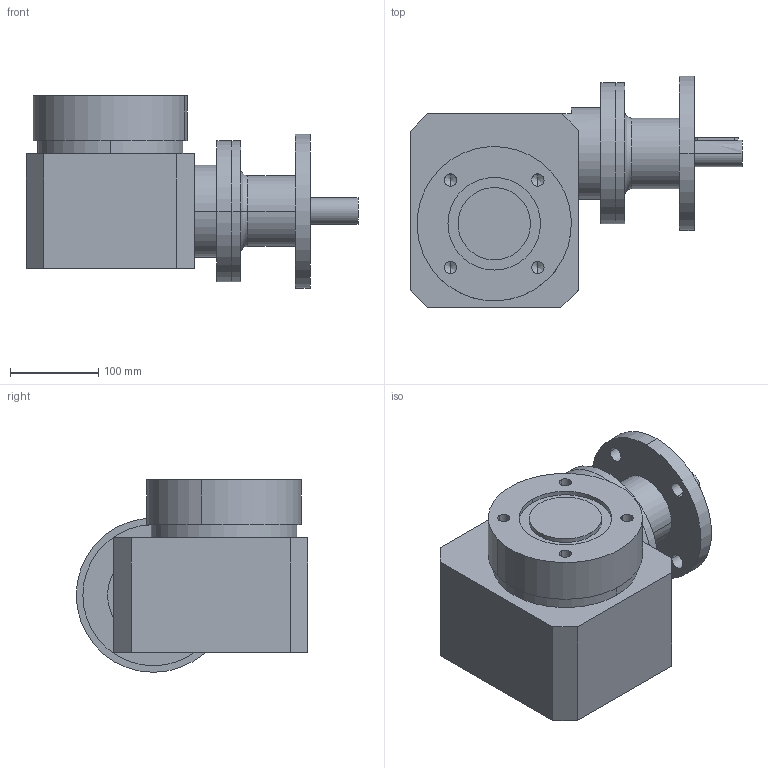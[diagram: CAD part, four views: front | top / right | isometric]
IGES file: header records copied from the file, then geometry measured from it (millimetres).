
Start section: Elysium IGES Interface
Global section: file name: H:\cad\2SP78\2SP784_2SP785_F14-F14.igs; native system: Creo Elements/Direct Modeling 20.0C  26-Jan-2018; preprocessor: Creo Element/Direct IGES_3D V2.2; author: Unknown; organization: Unknown; date: 20190719.165656; units: millimetre
Bounding box: 376.5 x 262.5 x 218.5 mm (x, y, z)
Volume: 8393994.8 mm3; surface area: 434320.5 mm2
Topology: 3 solids, 3 shells, 89 faces, 201 edges, 124 vertices
Faces by surface type: bspline 89
